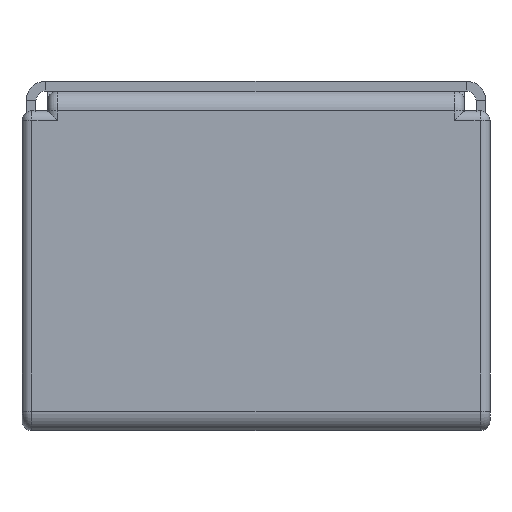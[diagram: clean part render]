
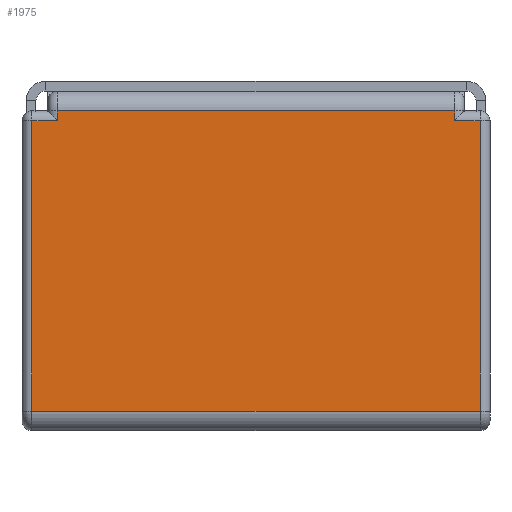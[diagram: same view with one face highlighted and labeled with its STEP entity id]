
A CAD part, front view. The second image highlights one B-rep face of the part: STEP entity #1975.
In plain terms, the highlighted planar face has unit normal (0, -1, 0).
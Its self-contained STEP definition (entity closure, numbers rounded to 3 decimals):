
#58 = EDGE_CURVE ( 'NONE', #4283, #2609, #1306, .T. ) ;
#233 = CARTESIAN_POINT ( 'NONE',  ( 1.27, -56.629, 25.552 ) ) ;
#267 = EDGE_CURVE ( 'NONE', #1140, #1005, #1351, .T. ) ;
#330 = CARTESIAN_POINT ( 'NONE',  ( 3.81, -56.629, 25.552 ) ) ;
#415 = VECTOR ( 'NONE', #1224, 1000. ) ;
#550 = LINE ( 'NONE', #4398, #4092 ) ;
#557 = CARTESIAN_POINT ( 'NONE',  ( 42.443, -56.629, -30.112 ) ) ;
#601 = VECTOR ( 'NONE', #1599, 1000. ) ;
#627 = ORIENTED_EDGE ( 'NONE', *, *, #2529, .T. ) ;
#817 = PLANE ( 'NONE',  #3035 ) ;
#901 = CARTESIAN_POINT ( 'NONE',  ( 44.983, -56.629, 28.842 ) ) ;
#970 = CARTESIAN_POINT ( 'NONE',  ( 5.08, -56.629, 25.552 ) ) ;
#978 = EDGE_CURVE ( 'NONE', #1140, #3436, #2573, .T. ) ;
#987 = FACE_OUTER_BOUND ( 'NONE', #3362, .T. ) ;
#1005 = VERTEX_POINT ( 'NONE', #1274 ) ;
#1059 = EDGE_CURVE ( 'NONE', #1005, #2117, #3278, .T. ) ;
#1140 = VERTEX_POINT ( 'NONE', #3573 ) ;
#1223 = CARTESIAN_POINT ( 'NONE',  ( 42.443, -56.629, -28.842 ) ) ;
#1224 = DIRECTION ( 'NONE',  ( 1., 0., 0. ) ) ;
#1249 = VERTEX_POINT ( 'NONE', #1502 ) ;
#1274 = CARTESIAN_POINT ( 'NONE',  ( 5.08, -56.629, -25.552 ) ) ;
#1306 = LINE ( 'NONE', #2142, #2092 ) ;
#1351 = LINE ( 'NONE', #3249, #415 ) ;
#1498 = LINE ( 'NONE', #901, #3200 ) ;
#1502 = CARTESIAN_POINT ( 'NONE',  ( 42.443, -56.629, 28.842 ) ) ;
#1576 = CARTESIAN_POINT ( 'NONE',  ( 5.08, -56.629, 28.842 ) ) ;
#1582 = VECTOR ( 'NONE', #1851, 1000. ) ;
#1599 = DIRECTION ( 'NONE',  ( 0., 0., 1. ) ) ;
#1666 = ORIENTED_EDGE ( 'NONE', *, *, #267, .T. ) ;
#1702 = VECTOR ( 'NONE', #3974, 1000. ) ;
#1774 = ORIENTED_EDGE ( 'NONE', *, *, #2346, .T. ) ;
#1851 = DIRECTION ( 'NONE',  ( 0., 0., -1. ) ) ;
#1856 = DIRECTION ( 'NONE',  ( 1., 0., 0. ) ) ;
#1975 = ADVANCED_FACE ( 'NONE', ( #987 ), #817, .T. ) ;
#2092 = VECTOR ( 'NONE', #2468, 1000. ) ;
#2113 = ORIENTED_EDGE ( 'NONE', *, *, #978, .F. ) ;
#2117 = VERTEX_POINT ( 'NONE', #3273 ) ;
#2142 = CARTESIAN_POINT ( 'NONE',  ( 5.08, -56.629, 26.822 ) ) ;
#2160 = ORIENTED_EDGE ( 'NONE', *, *, #1059, .T. ) ;
#2253 = CARTESIAN_POINT ( 'NONE',  ( 3.81, -56.629, -30.112 ) ) ;
#2346 = EDGE_CURVE ( 'NONE', #2117, #3606, #550, .T. ) ;
#2468 = DIRECTION ( 'NONE',  ( 0., 0., -1. ) ) ;
#2502 = LINE ( 'NONE', #557, #601 ) ;
#2515 = CARTESIAN_POINT ( 'NONE',  ( 44.983, -56.629, -30.112 ) ) ;
#2529 = EDGE_CURVE ( 'NONE', #2609, #3436, #4234, .T. ) ;
#2573 = LINE ( 'NONE', #2253, #1702 ) ;
#2609 = VERTEX_POINT ( 'NONE', #970 ) ;
#2612 = DIRECTION ( 'NONE',  ( -1., 0., 0. ) ) ;
#2804 = ORIENTED_EDGE ( 'NONE', *, *, #2990, .T. ) ;
#2990 = EDGE_CURVE ( 'NONE', #3606, #1249, #2502, .T. ) ;
#3001 = EDGE_CURVE ( 'NONE', #1249, #4283, #1498, .T. ) ;
#3035 = AXIS2_PLACEMENT_3D ( 'NONE', #2515, #3891, #1856 ) ;
#3200 = VECTOR ( 'NONE', #3616, 1000. ) ;
#3249 = CARTESIAN_POINT ( 'NONE',  ( 3.81, -56.629, -25.552 ) ) ;
#3273 = CARTESIAN_POINT ( 'NONE',  ( 5.08, -56.629, -28.842 ) ) ;
#3278 = LINE ( 'NONE', #4242, #1582 ) ;
#3362 = EDGE_LOOP ( 'NONE', ( #3753, #4189, #627, #2113, #1666, #2160, #1774, #2804 ) ) ;
#3379 = DIRECTION ( 'NONE',  ( 1., 0., 0. ) ) ;
#3436 = VERTEX_POINT ( 'NONE', #330 ) ;
#3521 = VECTOR ( 'NONE', #2612, 1000. ) ;
#3573 = CARTESIAN_POINT ( 'NONE',  ( 3.81, -56.629, -25.552 ) ) ;
#3606 = VERTEX_POINT ( 'NONE', #1223 ) ;
#3616 = DIRECTION ( 'NONE',  ( -1., 0., 0. ) ) ;
#3753 = ORIENTED_EDGE ( 'NONE', *, *, #3001, .T. ) ;
#3891 = DIRECTION ( 'NONE',  ( 0., -1., 0. ) ) ;
#3974 = DIRECTION ( 'NONE',  ( 0., 0., 1. ) ) ;
#4092 = VECTOR ( 'NONE', #3379, 1000. ) ;
#4189 = ORIENTED_EDGE ( 'NONE', *, *, #58, .T. ) ;
#4234 = LINE ( 'NONE', #233, #3521 ) ;
#4242 = CARTESIAN_POINT ( 'NONE',  ( 5.08, -56.629, -28.842 ) ) ;
#4283 = VERTEX_POINT ( 'NONE', #1576 ) ;
#4398 = CARTESIAN_POINT ( 'NONE',  ( 44.983, -56.629, -28.842 ) ) ;
